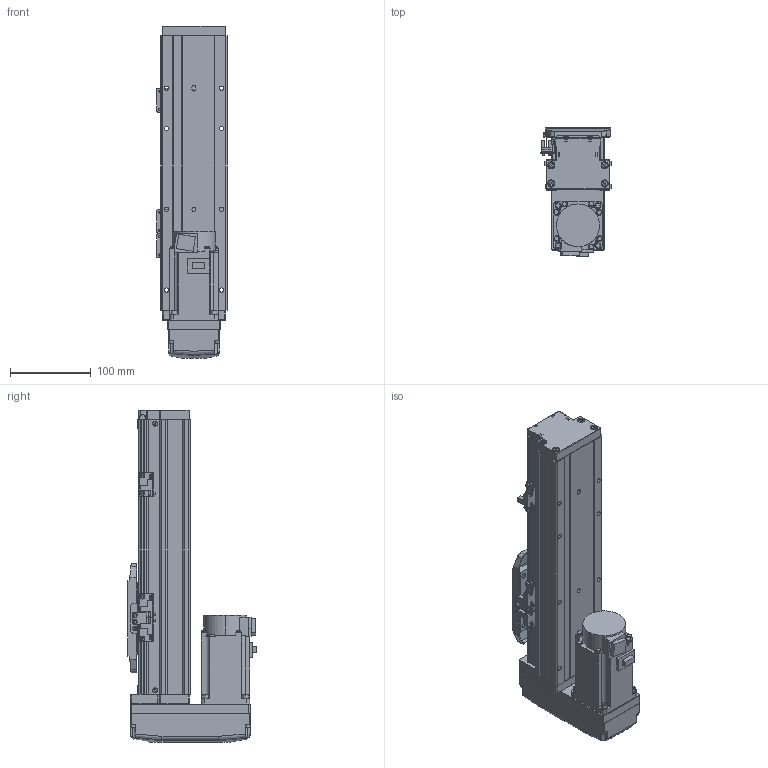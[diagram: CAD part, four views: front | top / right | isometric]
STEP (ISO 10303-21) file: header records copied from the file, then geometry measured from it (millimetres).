
FILE_DESCRIPTION (( 'STEP AP203' ), '1' );
FILE_NAME ('GTH8-150-BM-M20-C4.step', '2022-09-23T01:04:18', ( '微软用户' ), ( '微软中国' ), 'SwSTEP 2.0', 'SolidWorks 2020', '' );
FILE_SCHEMA (( 'CONFIG_CONTROL_DESIGN' ));
Length unit declared in the file: millimetre
Products named in the file (18): CTHA86-015-1_CTHA86-015-2; GTH80-004; GTH80-028; CTHA86-033_M40B; GTH80-006; GTH50-024; GTH8-150-BM-M20-C4; GTH80-013; GTH50-023; GBT 70.3-M3℅6; GBT96.1-2002 3×0.8; GTH80-022; BTH-M3X5X6; GTH80-001_150; GBT 70.1-M3℅6; hg-kn43j_-s100_; GTH80-003; GBT 70.1-M4×16
Assembly tree (57 placements, depth 2):
  GTH8-150-BM-M20-C4
    GTH80-001_150
    GTH80-003
    GTH80-004
    GTH80-006
    GTH80-013
    GBT 70.3-M3℅6  x4
    GTH80-022
    GBT 70.1-M3℅6  x14
    GBT 70.1-M4×16  x8
    GTH80-028  x2
    GTH50-024  x3
    GTH50-023  x3
    GBT96.1-2002 3×0.8  x6
    BTH-M3X5X6  x8
    hg-kn43j_-s100_
    CTHA86-015-1_CTHA86-015-2
    CTHA86-033_M40B
Bounding box: 86.9 x 160.3 x 411 mm (x, y, z)
Volume: 2463957.2 mm3; surface area: 312854.7 mm2
Topology: 59 solids, 59 shells, 2224 faces, 5127 edges, 3139 vertices
Faces by surface type: plane 1187, cylinder 595, cone 260, torus 166, bspline 8, sphere 8
Entity records: 40330 total; most frequent: CARTESIAN_POINT 7097, DIRECTION 6537, ORIENTED_EDGE 6072, EDGE_CURVE 3036, AXIS2_PLACEMENT_3D 2277, LINE 1983, VECTOR 1983, VERTEX_POINT 1914
